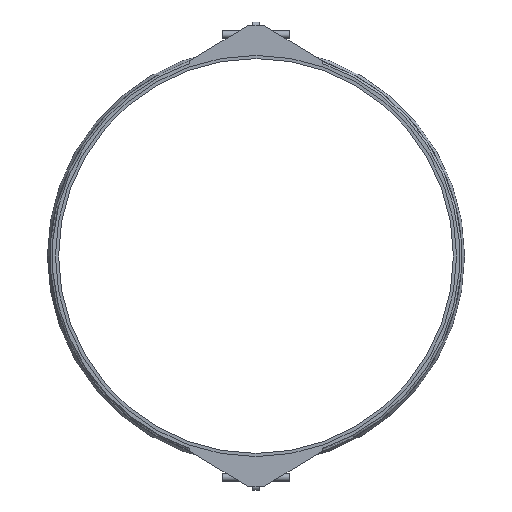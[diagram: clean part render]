
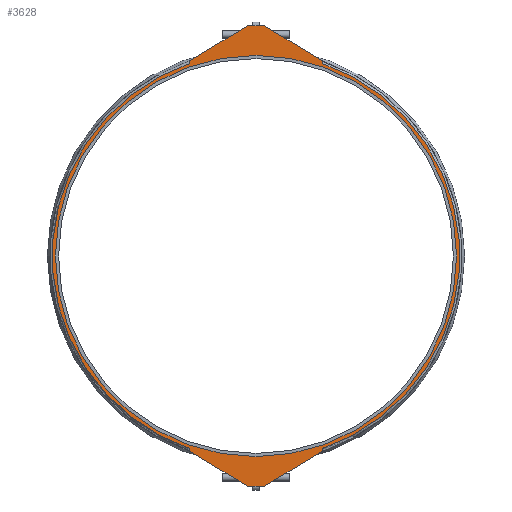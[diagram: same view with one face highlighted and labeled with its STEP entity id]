
A CAD part, left-side view. The second image highlights one B-rep face of the part: STEP entity #3628.
In plain terms, the highlighted planar face has unit normal (-1, 0, 0).
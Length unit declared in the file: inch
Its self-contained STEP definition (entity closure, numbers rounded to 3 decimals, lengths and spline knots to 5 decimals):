
#102=FACE_BOUND('',#650,.T.);
#238=PLANE('',#3957);
#429=FACE_OUTER_BOUND('',#649,.T.);
#649=EDGE_LOOP('',(#3180,#3181,#3182,#3183,#3184,#3185,#3186,#3187,#3188,
#3189,#3190,#3191,#3192,#3193,#3194,#3195,#3196,#3197,#3198,#3199));
#650=EDGE_LOOP('',(#3200,#3201));
#776=LINE('',#5287,#1119);
#779=LINE('',#5295,#1122);
#783=LINE('',#5304,#1126);
#785=LINE('',#5334,#1128);
#786=LINE('',#5355,#1129);
#941=LINE('',#5906,#1284);
#950=LINE('',#5933,#1293);
#952=LINE('',#5940,#1295);
#956=LINE('',#5949,#1299);
#959=LINE('',#5957,#1302);
#1119=VECTOR('',#4276,0.3937);
#1122=VECTOR('',#4285,0.3937);
#1126=VECTOR('',#4295,0.3937);
#1128=VECTOR('',#4303,0.3937);
#1129=VECTOR('',#4306,0.3937);
#1284=VECTOR('',#4707,0.3937);
#1293=VECTOR('',#4732,0.3937);
#1295=VECTOR('',#4740,0.3937);
#1299=VECTOR('',#4750,0.3937);
#1302=VECTOR('',#4759,0.3937);
#1363=CIRCLE('',#3736,0.063);
#1364=CIRCLE('',#3739,0.125);
#1365=CIRCLE('',#3742,0.125);
#1366=CIRCLE('',#3745,0.063);
#1368=CIRCLE('',#3750,24.375);
#1369=CIRCLE('',#3752,24.375);
#1414=CIRCLE('',#3880,0.063);
#1415=CIRCLE('',#3883,0.125);
#1416=CIRCLE('',#3886,0.125);
#1417=CIRCLE('',#3889,0.063);
#1453=CIRCLE('',#3955,24.);
#1454=CIRCLE('',#3956,24.);
#1559=VERTEX_POINT('',#5274);
#1560=VERTEX_POINT('',#5276);
#1562=VERTEX_POINT('',#5285);
#1563=VERTEX_POINT('',#5289);
#1564=VERTEX_POINT('',#5293);
#1565=VERTEX_POINT('',#5298);
#1566=VERTEX_POINT('',#5302);
#1568=VERTEX_POINT('',#5311);
#1569=VERTEX_POINT('',#5315);
#1570=VERTEX_POINT('',#5336);
#1573=VERTEX_POINT('',#5364);
#1574=VERTEX_POINT('',#5385);
#1711=VERTEX_POINT('',#5905);
#1721=VERTEX_POINT('',#5931);
#1722=VERTEX_POINT('',#5935);
#1723=VERTEX_POINT('',#5939);
#1724=VERTEX_POINT('',#5943);
#1725=VERTEX_POINT('',#5948);
#1726=VERTEX_POINT('',#5952);
#1727=VERTEX_POINT('',#5956);
#1769=VERTEX_POINT('',#6099);
#1770=VERTEX_POINT('',#6101);
#1920=EDGE_CURVE('',#1559,#1560,#1363,.T.);
#1924=EDGE_CURVE('',#1562,#1559,#776,.T.);
#1926=EDGE_CURVE('',#1563,#1562,#1364,.T.);
#1928=EDGE_CURVE('',#1564,#1563,#779,.T.);
#1931=EDGE_CURVE('',#1565,#1564,#1365,.T.);
#1933=EDGE_CURVE('',#1566,#1565,#783,.T.);
#1936=EDGE_CURVE('',#1568,#1566,#1366,.T.);
#1938=EDGE_CURVE('',#1569,#1568,#785,.T.);
#1940=EDGE_CURVE('',#1560,#1570,#786,.T.);
#1944=EDGE_CURVE('',#1569,#1573,#1368,.T.);
#1945=EDGE_CURVE('',#1574,#1570,#1369,.T.);
#2149=EDGE_CURVE('',#1711,#1574,#941,.T.);
#2163=EDGE_CURVE('',#1573,#1721,#950,.T.);
#2164=EDGE_CURVE('',#1722,#1711,#1414,.T.);
#2166=EDGE_CURVE('',#1723,#1722,#952,.T.);
#2168=EDGE_CURVE('',#1724,#1723,#1415,.T.);
#2171=EDGE_CURVE('',#1725,#1724,#956,.T.);
#2173=EDGE_CURVE('',#1726,#1725,#1416,.T.);
#2175=EDGE_CURVE('',#1727,#1726,#959,.T.);
#2177=EDGE_CURVE('',#1721,#1727,#1417,.T.);
#2246=EDGE_CURVE('',#1770,#1769,#1453,.T.);
#2247=EDGE_CURVE('',#1769,#1770,#1454,.T.);
#3180=ORIENTED_EDGE('',*,*,#1945,.T.);
#3181=ORIENTED_EDGE('',*,*,#1940,.F.);
#3182=ORIENTED_EDGE('',*,*,#1920,.F.);
#3183=ORIENTED_EDGE('',*,*,#1924,.F.);
#3184=ORIENTED_EDGE('',*,*,#1926,.F.);
#3185=ORIENTED_EDGE('',*,*,#1928,.F.);
#3186=ORIENTED_EDGE('',*,*,#1931,.F.);
#3187=ORIENTED_EDGE('',*,*,#1933,.F.);
#3188=ORIENTED_EDGE('',*,*,#1936,.F.);
#3189=ORIENTED_EDGE('',*,*,#1938,.F.);
#3190=ORIENTED_EDGE('',*,*,#1944,.T.);
#3191=ORIENTED_EDGE('',*,*,#2163,.T.);
#3192=ORIENTED_EDGE('',*,*,#2177,.T.);
#3193=ORIENTED_EDGE('',*,*,#2175,.T.);
#3194=ORIENTED_EDGE('',*,*,#2173,.T.);
#3195=ORIENTED_EDGE('',*,*,#2171,.T.);
#3196=ORIENTED_EDGE('',*,*,#2168,.T.);
#3197=ORIENTED_EDGE('',*,*,#2166,.T.);
#3198=ORIENTED_EDGE('',*,*,#2164,.T.);
#3199=ORIENTED_EDGE('',*,*,#2149,.T.);
#3200=ORIENTED_EDGE('',*,*,#2246,.T.);
#3201=ORIENTED_EDGE('',*,*,#2247,.T.);
#3628=ADVANCED_FACE('',(#429,#102),#238,.T.);
#3736=AXIS2_PLACEMENT_3D('',#5277,#4270,#4271);
#3739=AXIS2_PLACEMENT_3D('',#5291,#4280,#4281);
#3742=AXIS2_PLACEMENT_3D('',#5300,#4290,#4291);
#3745=AXIS2_PLACEMENT_3D('',#5313,#4299,#4300);
#3750=AXIS2_PLACEMENT_3D('',#5383,#4311,#4312);
#3752=AXIS2_PLACEMENT_3D('',#5386,#4315,#4316);
#3880=AXIS2_PLACEMENT_3D('',#5936,#4735,#4736);
#3883=AXIS2_PLACEMENT_3D('',#5944,#4744,#4745);
#3886=AXIS2_PLACEMENT_3D('',#5953,#4754,#4755);
#3889=AXIS2_PLACEMENT_3D('',#5960,#4763,#4764);
#3955=AXIS2_PLACEMENT_3D('',#6102,#4928,#4929);
#3956=AXIS2_PLACEMENT_3D('',#6103,#4930,#4931);
#3957=AXIS2_PLACEMENT_3D('',#6104,#4932,#4933);
#4270=DIRECTION('center_axis',(1.,0.,0.));
#4271=DIRECTION('ref_axis',(0.,-1.,0.));
#4276=DIRECTION('',(0.,0.856,0.517));
#4280=DIRECTION('center_axis',(1.,0.,0.));
#4281=DIRECTION('ref_axis',(0.,-0.517,0.856));
#4285=DIRECTION('',(0.,1.,0.));
#4290=DIRECTION('center_axis',(1.,0.,0.));
#4291=DIRECTION('ref_axis',(0.,0.,1.));
#4295=DIRECTION('',(0.,0.856,-0.517));
#4299=DIRECTION('center_axis',(1.,0.,0.));
#4300=DIRECTION('ref_axis',(0.,0.517,0.856));
#4303=DIRECTION('',(0.,0.,-1.));
#4306=DIRECTION('',(0.,0.,1.));
#4311=DIRECTION('center_axis',(-1.,0.,0.));
#4312=DIRECTION('ref_axis',(0.,0.,1.));
#4315=DIRECTION('center_axis',(-1.,0.,0.));
#4316=DIRECTION('ref_axis',(0.,0.,1.));
#4707=DIRECTION('',(0.,0.,-1.));
#4732=DIRECTION('',(0.,0.,1.));
#4735=DIRECTION('center_axis',(-1.,0.,0.));
#4736=DIRECTION('ref_axis',(0.,-1.,0.));
#4740=DIRECTION('',(0.,0.856,-0.517));
#4744=DIRECTION('center_axis',(-1.,0.,0.));
#4745=DIRECTION('ref_axis',(0.,-0.517,-0.856));
#4750=DIRECTION('',(0.,1.,0.));
#4754=DIRECTION('center_axis',(-1.,0.,0.));
#4755=DIRECTION('ref_axis',(0.,0.,-1.));
#4759=DIRECTION('',(0.,0.856,0.517));
#4763=DIRECTION('center_axis',(-1.,0.,0.));
#4764=DIRECTION('ref_axis',(0.,0.517,-0.856));
#4928=DIRECTION('center_axis',(1.,0.,0.));
#4929=DIRECTION('ref_axis',(0.,0.,-1.));
#4930=DIRECTION('center_axis',(1.,0.,0.));
#4931=DIRECTION('ref_axis',(0.,0.,-1.));
#4932=DIRECTION('center_axis',(-1.,0.,0.));
#4933=DIRECTION('ref_axis',(0.,0.,1.));
#5274=CARTESIAN_POINT('',(-3.25,7.96956,-23.34316));
#5276=CARTESIAN_POINT('',(-3.25,8.,-23.28922));
#5277=CARTESIAN_POINT('Origin',(-3.25,7.937,-23.28922));
#5285=CARTESIAN_POINT('',(-3.25,1.02979,-27.53202));
#5287=CARTESIAN_POINT('',(-3.25,1.02979,-27.53202));
#5289=CARTESIAN_POINT('',(-3.25,0.9652,-27.55));
#5291=CARTESIAN_POINT('Origin',(-3.25,0.9652,-27.425));
#5293=CARTESIAN_POINT('',(-3.25,-0.9652,-27.55));
#5295=CARTESIAN_POINT('',(-3.25,0.,-27.55));
#5298=CARTESIAN_POINT('',(-3.25,-1.02979,-27.53202));
#5300=CARTESIAN_POINT('Origin',(-3.25,-0.9652,-27.425));
#5302=CARTESIAN_POINT('',(-3.25,-7.96956,-23.34316));
#5304=CARTESIAN_POINT('',(-3.25,-7.96956,-23.34316));
#5311=CARTESIAN_POINT('',(-3.25,-8.,-23.28922));
#5313=CARTESIAN_POINT('Origin',(-3.25,-7.937,-23.28922));
#5315=CARTESIAN_POINT('',(-3.25,-8.,-23.02478));
#5334=CARTESIAN_POINT('',(-3.25,-8.,-23.02478));
#5336=CARTESIAN_POINT('',(-3.25,8.,-23.02478));
#5355=CARTESIAN_POINT('',(-3.25,8.,-23.28922));
#5364=CARTESIAN_POINT('',(-3.25,-8.,23.02478));
#5383=CARTESIAN_POINT('Origin',(-3.25,0.,0.));
#5385=CARTESIAN_POINT('',(-3.25,8.,23.02478));
#5386=CARTESIAN_POINT('Origin',(-3.25,0.,0.));
#5905=CARTESIAN_POINT('',(-3.25,8.,23.28922));
#5906=CARTESIAN_POINT('',(-3.25,8.,23.28922));
#5931=CARTESIAN_POINT('',(-3.25,-8.,23.28922));
#5933=CARTESIAN_POINT('',(-3.25,-8.,23.02478));
#5935=CARTESIAN_POINT('',(-3.25,7.96956,23.34316));
#5936=CARTESIAN_POINT('Origin',(-3.25,7.937,23.28922));
#5939=CARTESIAN_POINT('',(-3.25,1.02979,27.53202));
#5940=CARTESIAN_POINT('',(-3.25,1.02979,27.53202));
#5943=CARTESIAN_POINT('',(-3.25,0.9652,27.55));
#5944=CARTESIAN_POINT('Origin',(-3.25,0.9652,27.425));
#5948=CARTESIAN_POINT('',(-3.25,-0.9652,27.55));
#5949=CARTESIAN_POINT('',(-3.25,0.,27.55));
#5952=CARTESIAN_POINT('',(-3.25,-1.02979,27.53202));
#5953=CARTESIAN_POINT('Origin',(-3.25,-0.9652,27.425));
#5956=CARTESIAN_POINT('',(-3.25,-7.96956,23.34316));
#5957=CARTESIAN_POINT('',(-3.25,-7.96956,23.34316));
#5960=CARTESIAN_POINT('Origin',(-3.25,-7.937,23.28922));
#6099=CARTESIAN_POINT('',(-3.25,-24.,0.));
#6101=CARTESIAN_POINT('',(-3.25,24.,0.));
#6102=CARTESIAN_POINT('Origin',(-3.25,0.,0.));
#6103=CARTESIAN_POINT('Origin',(-3.25,0.,0.));
#6104=CARTESIAN_POINT('Origin',(-3.25,24.625,0.));
